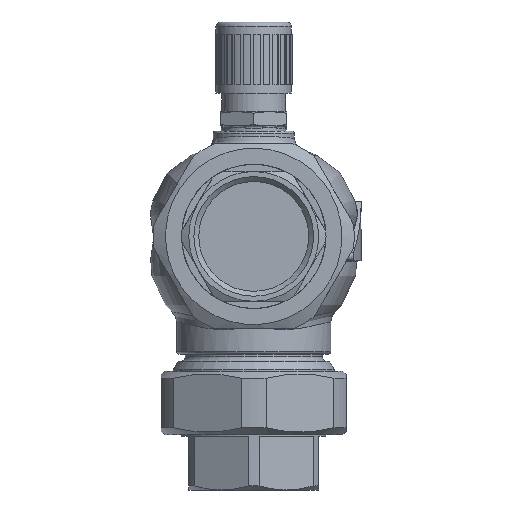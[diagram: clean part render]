
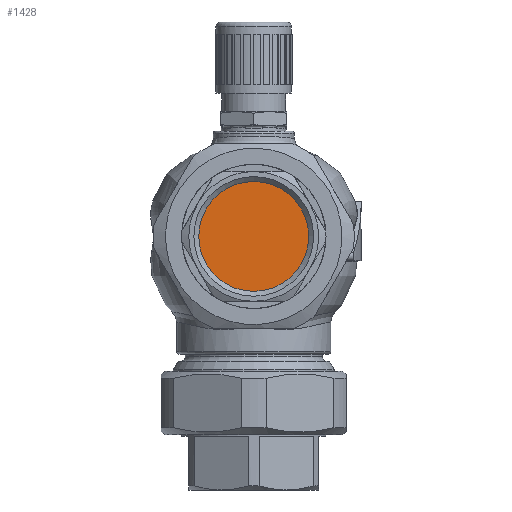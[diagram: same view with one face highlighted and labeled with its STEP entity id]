
A CAD part, left-side view. The second image highlights one B-rep face of the part: STEP entity #1428.
In plain terms, the highlighted planar face has unit normal (-1, 0, 0).
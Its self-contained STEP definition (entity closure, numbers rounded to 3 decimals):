
#441=FACE_OUTER_BOUND('',#2295,.T.);
#1428=ADVANCED_FACE('',(#441),#1739,.T.);
#1739=PLANE('',#6011);
#2295=EDGE_LOOP('',(#3140));
#3140=ORIENTED_EDGE('',*,*,#4950,.T.);
#4347=VERTEX_POINT('',#13589);
#4950=EDGE_CURVE('',#4347,#4347,#5567,.T.);
#5567=CIRCLE('',#6010,30.855);
#6010=AXIS2_PLACEMENT_3D('',#13588,#6995,#6996);
#6011=AXIS2_PLACEMENT_3D('',#13590,#6997,#6998);
#6995=DIRECTION('',(-1.,0.,0.));
#6996=DIRECTION('',(0.,-1.,0.));
#6997=DIRECTION('',(-1.,0.,0.));
#6998=DIRECTION('',(0.,-1.,0.));
#13588=CARTESIAN_POINT('',(30.,0.,100.));
#13589=CARTESIAN_POINT('',(30.,-30.855,100.));
#13590=CARTESIAN_POINT('',(30.,0.,100.));
